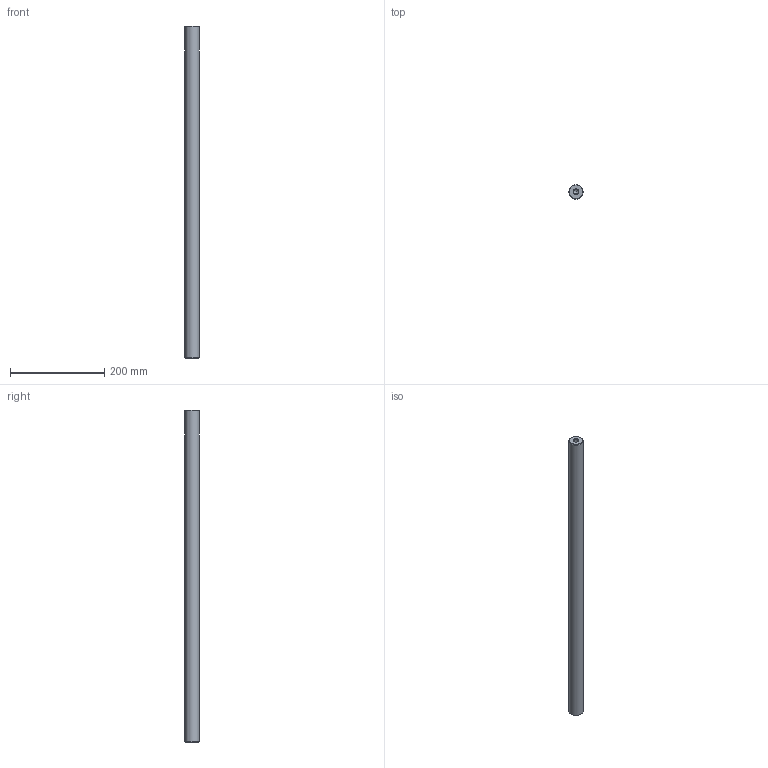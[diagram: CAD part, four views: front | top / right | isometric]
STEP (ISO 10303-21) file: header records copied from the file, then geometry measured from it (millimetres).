
FILE_DESCRIPTION( ( 'STEP AP214' ), '1' );
FILE_NAME( 'U:/Etudes/Top Solid/BIBLIO 3D AVM/STEP/G_GUIDAGE/Accessoires/Colonnes/Ø30x705.step', '2007-06-18T12:28:00', ( ' ' ), ( ' ' ), 'XStep 1.0', ' ', ' ' );
FILE_SCHEMA( ( 'automotive_design' ) );
Length unit declared in the file: metre
Products named in the file (1): 1
Bounding box: 30 x 30 x 705 mm (x, y, z)
Volume: 493003 mm3; surface area: 69768.1 mm2
Topology: 1 solids, 1 shells, 13 faces, 27 edges, 16 vertices
Faces by surface type: cone 6, cylinder 5, plane 2
Full cylindrical faces by diameter (mm): 10.106 x4, 30 x1
Entity records: 382 total; most frequent: DIRECTION 52, CARTESIAN_POINT 40, AXIS2_PLACEMENT_3D 26, EDGE_LOOP 24, ORIENTED_EDGE 24, FACE_OUTER_BOUND 18, VERTEX_POINT 14, STYLED_ITEM 13
